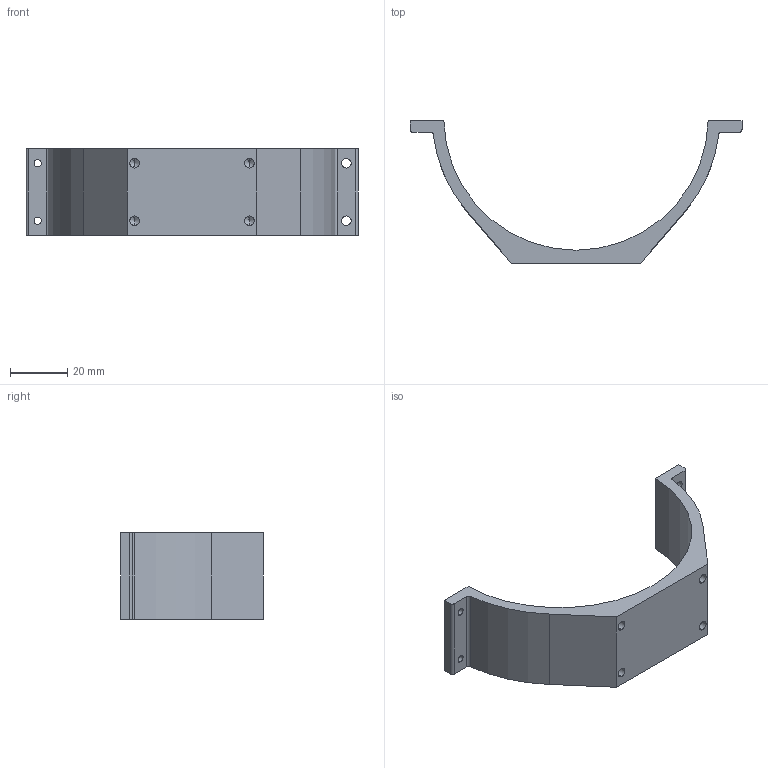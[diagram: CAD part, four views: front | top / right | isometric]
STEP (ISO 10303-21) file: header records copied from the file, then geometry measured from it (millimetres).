
FILE_DESCRIPTION (( 'STEP AP203' ), '1' );
FILE_NAME ('WTE3-M-CLAMP-R1.STEP', '2016-11-08T00:29:11', ( '' ), ( '' ), 'SwSTEP 2.0', 'SolidWorks 2014', '' );
FILE_SCHEMA (( 'CONFIG_CONTROL_DESIGN' ));
Length unit declared in the file: millimetre
Products named in the file (1): WTE3-M-CLAMP-R1
Bounding box: 115.57 x 49.5 x 30 mm (x, y, z)
Volume: 24279.9 mm3; surface area: 12310.2 mm2
Topology: 1 solids, 1 shells, 42 faces, 112 edges, 68 vertices
Faces by surface type: cylinder 23, plane 11, cone 8
Entity records: 1355 total; most frequent: DIRECTION 236, CARTESIAN_POINT 215, ORIENTED_EDGE 208, EDGE_CURVE 104, AXIS2_PLACEMENT_3D 89, VERTEX_POINT 68, VECTOR 58, LINE 58
